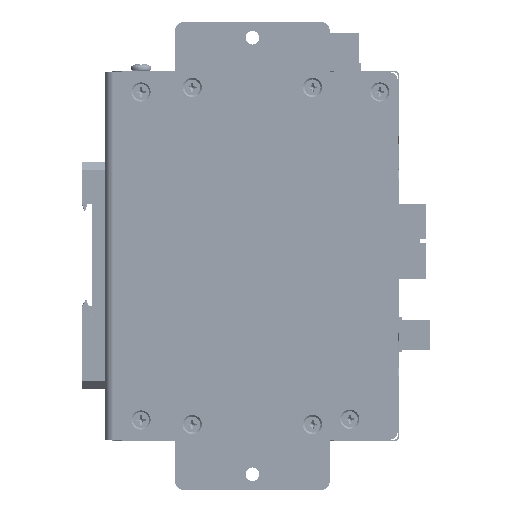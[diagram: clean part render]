
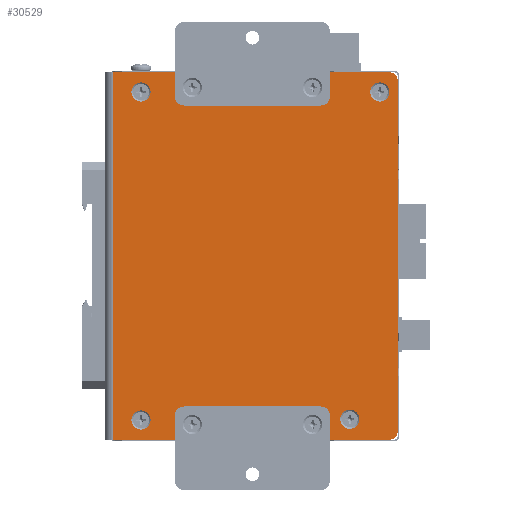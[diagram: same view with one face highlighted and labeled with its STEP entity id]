
A CAD part, left-side view. The second image highlights one B-rep face of the part: STEP entity #30529.
In plain terms, the highlighted planar face has unit normal (-1, 0, 0).
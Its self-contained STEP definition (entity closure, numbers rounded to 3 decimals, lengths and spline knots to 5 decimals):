
#2074=CIRCLE('',#35185,0.00324);
#2075=CIRCLE('',#35186,0.00324);
#2076=CIRCLE('',#35187,0.00324);
#2077=CIRCLE('',#35188,0.00324);
#2078=CIRCLE('',#35189,0.00324);
#2079=CIRCLE('',#35190,0.00324);
#2080=CIRCLE('',#35191,0.00324);
#2081=CIRCLE('',#35192,0.00324);
#2082=CIRCLE('',#35193,0.00254);
#2083=CIRCLE('',#35194,0.00254);
#3853=LINE('',#57574,#6488);
#3857=LINE('',#57583,#6492);
#3863=LINE('',#57597,#6498);
#3865=LINE('',#57619,#6500);
#6488=VECTOR('',#40944,1.);
#6492=VECTOR('',#40950,1.);
#6498=VECTOR('',#40958,1.);
#6500=VECTOR('',#40982,1.);
#12411=ORIENTED_EDGE('',*,*,#18676,.F.);
#12412=ORIENTED_EDGE('',*,*,#18677,.F.);
#12413=ORIENTED_EDGE('',*,*,#18678,.F.);
#12414=ORIENTED_EDGE('',*,*,#18679,.F.);
#12415=ORIENTED_EDGE('',*,*,#18680,.F.);
#12416=ORIENTED_EDGE('',*,*,#18681,.F.);
#12417=ORIENTED_EDGE('',*,*,#18682,.F.);
#12418=ORIENTED_EDGE('',*,*,#18683,.F.);
#12419=ORIENTED_EDGE('',*,*,#18674,.F.);
#12420=ORIENTED_EDGE('',*,*,#18684,.T.);
#12421=ORIENTED_EDGE('',*,*,#18664,.T.);
#12422=ORIENTED_EDGE('',*,*,#18685,.T.);
#12423=ORIENTED_EDGE('',*,*,#18668,.T.);
#12424=ORIENTED_EDGE('',*,*,#18686,.F.);
#18664=EDGE_CURVE('',#22282,#22283,#3853,.T.);
#18668=EDGE_CURVE('',#22286,#22287,#3857,.T.);
#18674=EDGE_CURVE('',#22292,#22293,#3863,.T.);
#18676=EDGE_CURVE('',#22294,#22294,#2074,.T.);
#18677=EDGE_CURVE('',#22295,#22295,#2075,.T.);
#18678=EDGE_CURVE('',#22296,#22296,#2076,.T.);
#18679=EDGE_CURVE('',#22297,#22297,#2077,.T.);
#18680=EDGE_CURVE('',#22298,#22298,#2078,.T.);
#18681=EDGE_CURVE('',#22299,#22299,#2079,.T.);
#18682=EDGE_CURVE('',#22300,#22300,#2080,.T.);
#18683=EDGE_CURVE('',#22301,#22301,#2081,.T.);
#18684=EDGE_CURVE('',#22292,#22282,#2082,.T.);
#18685=EDGE_CURVE('',#22283,#22286,#2083,.T.);
#18686=EDGE_CURVE('',#22293,#22287,#3865,.F.);
#22282=VERTEX_POINT('',#57575);
#22283=VERTEX_POINT('',#57576);
#22286=VERTEX_POINT('',#57584);
#22287=VERTEX_POINT('',#57585);
#22292=VERTEX_POINT('',#57596);
#22293=VERTEX_POINT('',#57598);
#22294=VERTEX_POINT('',#57602);
#22295=VERTEX_POINT('',#57604);
#22296=VERTEX_POINT('',#57606);
#22297=VERTEX_POINT('',#57608);
#22298=VERTEX_POINT('',#57610);
#22299=VERTEX_POINT('',#57612);
#22300=VERTEX_POINT('',#57614);
#22301=VERTEX_POINT('',#57616);
#25285=EDGE_LOOP('',(#12411));
#25286=EDGE_LOOP('',(#12412));
#25287=EDGE_LOOP('',(#12413));
#25288=EDGE_LOOP('',(#12414));
#25289=EDGE_LOOP('',(#12415));
#25290=EDGE_LOOP('',(#12416));
#25291=EDGE_LOOP('',(#12417));
#25292=EDGE_LOOP('',(#12418));
#25293=EDGE_LOOP('',(#12419,#12420,#12421,#12422,#12423,#12424));
#27712=FACE_BOUND('',#25285,.T.);
#27713=FACE_BOUND('',#25286,.T.);
#27714=FACE_BOUND('',#25287,.T.);
#27715=FACE_BOUND('',#25288,.T.);
#27716=FACE_BOUND('',#25289,.T.);
#27717=FACE_BOUND('',#25290,.T.);
#27718=FACE_BOUND('',#25291,.T.);
#27719=FACE_BOUND('',#25292,.T.);
#27720=FACE_BOUND('',#25293,.T.);
#29109=PLANE('',#35184);
#30529=ADVANCED_FACE('',(#27712,#27713,#27714,#27715,#27716,#27717,#27718,
#27719,#27720),#29109,.T.);
#35184=AXIS2_PLACEMENT_3D('',#57600,#40960,#40961);
#35185=AXIS2_PLACEMENT_3D('',#57601,#40962,#40963);
#35186=AXIS2_PLACEMENT_3D('',#57603,#40964,#40965);
#35187=AXIS2_PLACEMENT_3D('',#57605,#40966,#40967);
#35188=AXIS2_PLACEMENT_3D('',#57607,#40968,#40969);
#35189=AXIS2_PLACEMENT_3D('',#57609,#40970,#40971);
#35190=AXIS2_PLACEMENT_3D('',#57611,#40972,#40973);
#35191=AXIS2_PLACEMENT_3D('',#57613,#40974,#40975);
#35192=AXIS2_PLACEMENT_3D('',#57615,#40976,#40977);
#35193=AXIS2_PLACEMENT_3D('',#57617,#40978,#40979);
#35194=AXIS2_PLACEMENT_3D('',#57618,#40980,#40981);
#40944=DIRECTION('',(0.,0.,1.));
#40950=DIRECTION('',(0.,1.,0.));
#40958=DIRECTION('',(0.,1.,0.));
#40960=DIRECTION('',(-1.,0.,0.));
#40961=DIRECTION('',(0.,0.,1.));
#40962=DIRECTION('',(-1.,0.,0.));
#40963=DIRECTION('',(0.,0.,1.));
#40964=DIRECTION('',(-1.,0.,0.));
#40965=DIRECTION('',(0.,0.,1.));
#40966=DIRECTION('',(-1.,0.,0.));
#40967=DIRECTION('',(0.,0.,1.));
#40968=DIRECTION('',(-1.,0.,0.));
#40969=DIRECTION('',(0.,0.,1.));
#40970=DIRECTION('',(-1.,0.,0.));
#40971=DIRECTION('',(0.,0.,1.));
#40972=DIRECTION('',(-1.,0.,0.));
#40973=DIRECTION('',(0.,0.,1.));
#40974=DIRECTION('',(-1.,0.,0.));
#40975=DIRECTION('',(0.,0.,1.));
#40976=DIRECTION('',(-1.,0.,0.));
#40977=DIRECTION('',(0.,0.,1.));
#40978=DIRECTION('',(-1.,0.,0.));
#40979=DIRECTION('',(0.,0.,1.));
#40980=DIRECTION('',(-1.,0.,0.));
#40981=DIRECTION('',(0.,0.,1.));
#40982=DIRECTION('',(0.,0.,-1.));
#57574=CARTESIAN_POINT('',(-0.01524,-0.09703,0.));
#57575=CARTESIAN_POINT('',(-0.01524,-0.09703,-0.05944));
#57576=CARTESIAN_POINT('',(-0.01524,-0.09703,0.05944));
#57583=CARTESIAN_POINT('',(-0.01524,-0.09703,0.06198));
#57584=CARTESIAN_POINT('',(-0.01524,-0.09449,0.06198));
#57585=CARTESIAN_POINT('',(-0.01524,-0.00102,0.06198));
#57596=CARTESIAN_POINT('',(-0.01524,-0.09449,-0.06198));
#57597=CARTESIAN_POINT('',(-0.01524,-0.09703,-0.06198));
#57598=CARTESIAN_POINT('',(-0.01524,-0.00102,-0.06198));
#57600=CARTESIAN_POINT('',(-0.01524,-0.09703,0.));
#57601=CARTESIAN_POINT('',(-0.01524,-0.02769,0.0569));
#57602=CARTESIAN_POINT('',(-0.01524,-0.02769,0.06013));
#57603=CARTESIAN_POINT('',(-0.01524,-0.06833,0.0569));
#57604=CARTESIAN_POINT('',(-0.01524,-0.06833,0.06013));
#57605=CARTESIAN_POINT('',(-0.01524,-0.09106,0.05537));
#57606=CARTESIAN_POINT('',(-0.01524,-0.09106,0.05861));
#57607=CARTESIAN_POINT('',(-0.01524,-0.0809,-0.05512));
#57608=CARTESIAN_POINT('',(-0.01524,-0.0809,-0.05188));
#57609=CARTESIAN_POINT('',(-0.01524,-0.06833,-0.0569));
#57610=CARTESIAN_POINT('',(-0.01524,-0.06833,-0.05366));
#57611=CARTESIAN_POINT('',(-0.01524,-0.02769,-0.0569));
#57612=CARTESIAN_POINT('',(-0.01524,-0.02769,-0.05366));
#57613=CARTESIAN_POINT('',(-0.01524,-0.01041,-0.05537));
#57614=CARTESIAN_POINT('',(-0.01524,-0.01041,-0.05213));
#57615=CARTESIAN_POINT('',(-0.01524,-0.01041,0.05537));
#57616=CARTESIAN_POINT('',(-0.01524,-0.01041,0.05861));
#57617=CARTESIAN_POINT('',(-0.01524,-0.09449,-0.05944));
#57618=CARTESIAN_POINT('',(-0.01524,-0.09449,0.05944));
#57619=CARTESIAN_POINT('',(-0.01524,-0.00102,0.));
